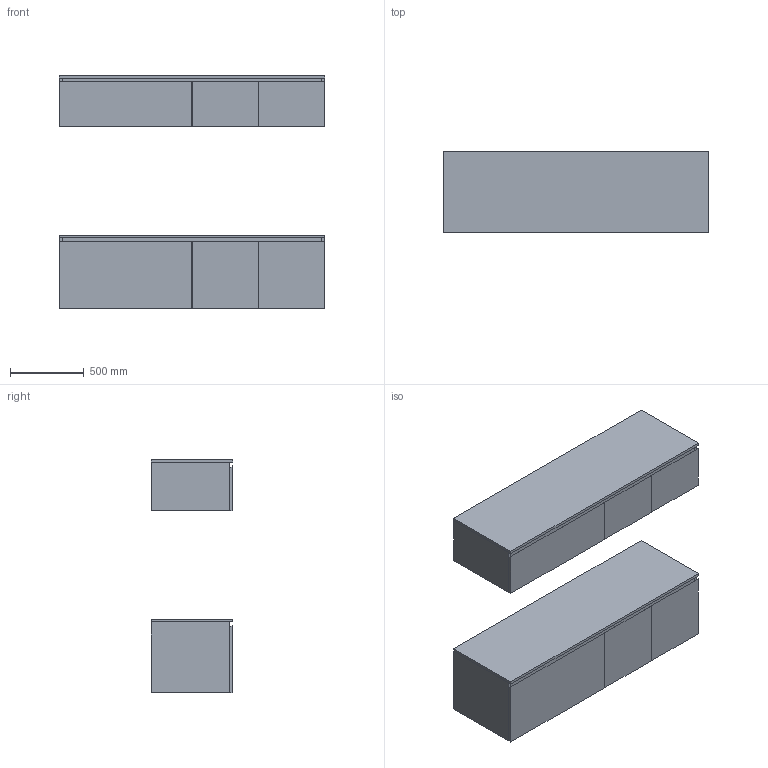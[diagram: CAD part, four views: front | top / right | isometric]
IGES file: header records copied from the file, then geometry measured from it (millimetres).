
Global section: file name: \\Archi-NAS\Comune\X GIOVANNI\MOBILI\EMOTION\EMOTION_5.igs; native system: Rhinoceros ( Feb 23 2021 ); preprocessor: Trout Lake IGES 012 Feb 23 2021; date: 230608.071815; units: millimetre
Bounding box: 1800 x 550 x 1583.89 mm (x, y, z)
Surface area: 19623818.8 mm2 (no closed solid volume)
Topology: 0 solids, 0 shells, 184 faces, 744 edges, 744 vertices
Faces by surface type: bspline 184
